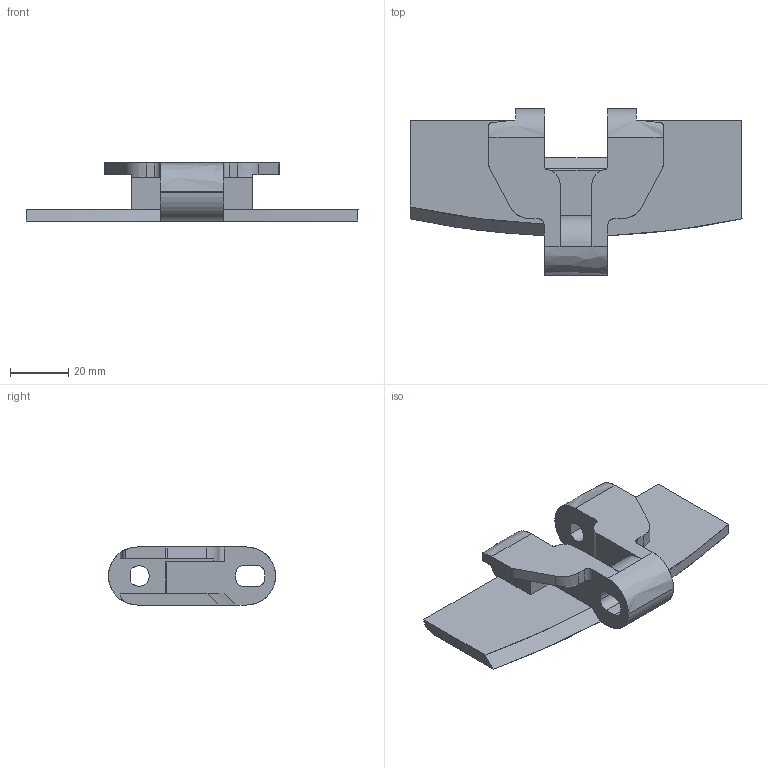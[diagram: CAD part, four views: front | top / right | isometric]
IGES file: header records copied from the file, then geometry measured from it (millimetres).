
Start section: SolidWorks IGES file using analytic representation for surfaces
Global section: file name: C:\Documents and Settings\URETIM3\Desktop\yeni katalog tolgay\880 tab kulaklý dönüþlü bant\880 TBB 114.IGS; native system: SolidWorks 2006 by SolidWorks Corporation; preprocessor: SolidWorks 2006 by SolidWorks Corporation; author: URETIM3; date: 061030.092203; units: millimetre
Bounding box: 114.3 x 57.5 x 20 mm (x, y, z)
Surface area: 16169 mm2 (no closed solid volume)
Topology: 0 solids, 0 shells, 68 faces, 838 edges, 838 vertices
Faces by surface type: bspline 38, revolution 30
